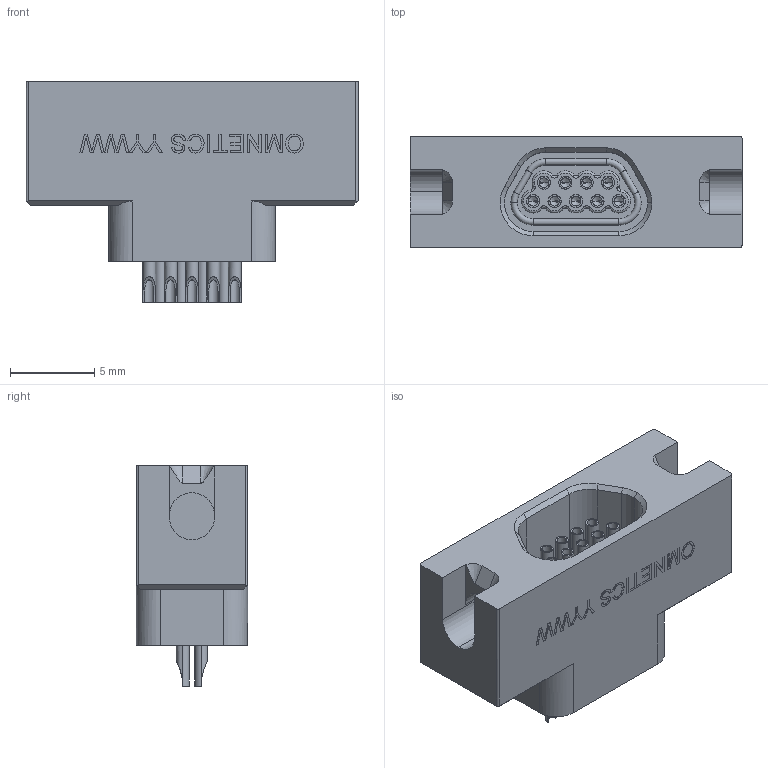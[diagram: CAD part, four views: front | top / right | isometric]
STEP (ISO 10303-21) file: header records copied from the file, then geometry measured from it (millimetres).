
FILE_DESCRIPTION (( 'STEP AP214' ), '1' );
FILE_NAME ('A99080-009 REV A.STEP', '2012-12-04T15:33:03', ( '' ), ( '' ), 'SwSTEP 2.0', 'SolidWorks 2012', '' );
FILE_SCHEMA (( 'AUTOMOTIVE_DESIGN' ));
Length unit declared in the file: inch
Products named in the file (1): A99080-009 Rev A
Bounding box: 19.68 x 6.62 x 13.06 mm (x, y, z)
Volume: 945.3 mm3; surface area: 1360.4 mm2
Topology: 1 solids, 13 shells, 601 faces, 1464 edges, 907 vertices
Faces by surface type: plane 240, cylinder 218, bspline 54, cone 45, torus 44
Entity records: 20557 total; most frequent: CARTESIAN_POINT 6649, DIRECTION 2867, ORIENTED_EDGE 2844, EDGE_CURVE 1422, AXIS2_PLACEMENT_3D 1041, VERTEX_POINT 907, VECTOR 785, LINE 785
